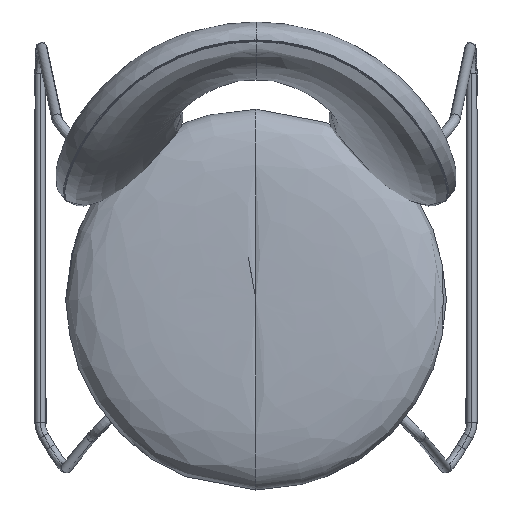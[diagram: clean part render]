
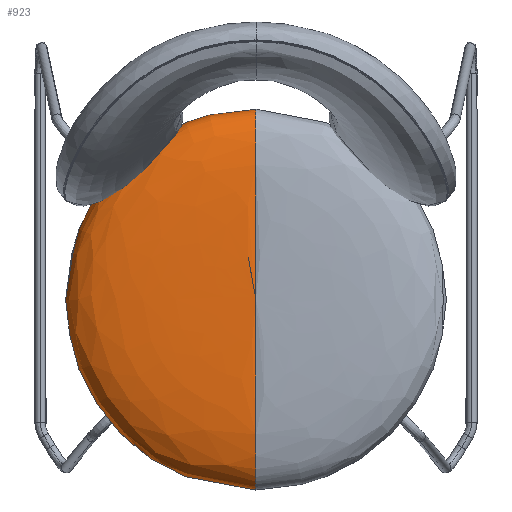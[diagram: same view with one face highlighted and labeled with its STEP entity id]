
A CAD part, top view. The second image highlights one B-rep face of the part: STEP entity #923.
In plain terms, the highlighted free-form (B-spline) face has degree [3, 2] with [8, 5] control points.
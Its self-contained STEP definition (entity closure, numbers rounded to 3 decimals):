
#142=(
BOUNDED_SURFACE()
B_SPLINE_SURFACE(3,2,((#39937,#39938,#39939,#39940,#39941),(#39942,#39943,
#39944,#39945,#39946),(#39947,#39948,#39949,#39950,#39951),(#39952,#39953,
#39954,#39955,#39956),(#39957,#39958,#39959,#39960,#39961),(#39962,#39963,
#39964,#39965,#39966),(#39967,#39968,#39969,#39970,#39971),(#39972,#39973,
#39974,#39975,#39976)),.UNSPECIFIED.,.F.,.F.,.F.)
B_SPLINE_SURFACE_WITH_KNOTS((4,3,1,4),(3,2,3),(-265.,0.,117.5,
235.),(691.148,1036.723,1382.297),
 .UNSPECIFIED.)
GEOMETRIC_REPRESENTATION_ITEM()
RATIONAL_B_SPLINE_SURFACE(((1.,0.707,1.,0.707,1.),
(1.,0.707,1.,0.707,1.),(1.,0.707,1.,
0.707,1.),(1.,0.707,1.,0.707,1.),(1.,
0.707,1.,0.707,1.),(1.,0.707,1.,0.707,
1.),(1.,0.707,1.,0.707,1.),(1.,0.707,
1.,0.707,1.)))
REPRESENTATION_ITEM('')
SURFACE()
);
#923=ADVANCED_FACE('',(#1141),#142,.T.);
#1141=FACE_OUTER_BOUND('',#1359,.T.);
#1359=EDGE_LOOP('',(#2314,#2315));
#2314=ORIENTED_EDGE('',*,*,#3209,.T.);
#2315=ORIENTED_EDGE('',*,*,#3208,.F.);
#3208=EDGE_CURVE('',#5278,#5279,#3544,.T.);
#3209=EDGE_CURVE('',#5278,#5279,#3545,.T.);
#3544=B_SPLINE_CURVE_WITH_KNOTS('',3,(#39979,#39980,#39981,#39982,#39983,
#39984,#39985,#39986),.UNSPECIFIED.,.F.,.F.,(4,3,1,4),(-265.,
0.,117.5,235.),.UNSPECIFIED.);
#3545=B_SPLINE_CURVE_WITH_KNOTS('',3,(#39987,#39988,#39989,#39990,#39991,
#39992,#39993,#39994),.UNSPECIFIED.,.F.,.F.,(4,3,1,4),(-265.,
0.,117.5,235.),.UNSPECIFIED.);
#5278=VERTEX_POINT('',#39977);
#5279=VERTEX_POINT('',#39978);
#39937=CARTESIAN_POINT('',(2980.184,99.115,470.));
#39938=CARTESIAN_POINT('',(2980.184,99.115,470.));
#39939=CARTESIAN_POINT('',(2980.184,99.115,470.));
#39940=CARTESIAN_POINT('',(2980.184,99.115,470.));
#39941=CARTESIAN_POINT('',(2980.184,99.115,470.));
#39942=CARTESIAN_POINT('',(2980.184,237.495,470.));
#39943=CARTESIAN_POINT('',(2841.805,237.495,470.));
#39944=CARTESIAN_POINT('',(2841.805,99.115,470.));
#39945=CARTESIAN_POINT('',(2841.805,-39.265,470.));
#39946=CARTESIAN_POINT('',(2980.184,-39.265,470.));
#39947=CARTESIAN_POINT('',(2980.184,319.115,470.));
#39948=CARTESIAN_POINT('',(2760.184,319.115,470.));
#39949=CARTESIAN_POINT('',(2760.184,99.115,470.));
#39950=CARTESIAN_POINT('',(2760.184,-120.885,470.));
#39951=CARTESIAN_POINT('',(2980.184,-120.885,470.));
#39952=CARTESIAN_POINT('',(2980.184,319.115,425.));
#39953=CARTESIAN_POINT('',(2760.184,319.115,425.));
#39954=CARTESIAN_POINT('',(2760.184,99.115,425.));
#39955=CARTESIAN_POINT('',(2760.184,-120.885,425.));
#39956=CARTESIAN_POINT('',(2980.184,-120.885,425.));
#39957=CARTESIAN_POINT('',(2980.184,319.115,410.));
#39958=CARTESIAN_POINT('',(2760.184,319.115,410.));
#39959=CARTESIAN_POINT('',(2760.184,99.115,410.));
#39960=CARTESIAN_POINT('',(2760.184,-120.885,410.));
#39961=CARTESIAN_POINT('',(2980.184,-120.885,410.));
#39962=CARTESIAN_POINT('',(2980.184,304.394,410.));
#39963=CARTESIAN_POINT('',(2774.905,304.394,410.));
#39964=CARTESIAN_POINT('',(2774.905,99.115,410.));
#39965=CARTESIAN_POINT('',(2774.905,-106.164,410.));
#39966=CARTESIAN_POINT('',(2980.184,-106.164,410.));
#39967=CARTESIAN_POINT('',(2980.184,268.233,410.));
#39968=CARTESIAN_POINT('',(2811.066,268.233,410.));
#39969=CARTESIAN_POINT('',(2811.066,99.115,410.));
#39970=CARTESIAN_POINT('',(2811.066,-70.003,410.));
#39971=CARTESIAN_POINT('',(2980.184,-70.003,410.));
#39972=CARTESIAN_POINT('',(2980.184,99.115,410.));
#39973=CARTESIAN_POINT('',(2980.184,99.115,410.));
#39974=CARTESIAN_POINT('',(2980.184,99.115,410.));
#39975=CARTESIAN_POINT('',(2980.184,99.115,410.));
#39976=CARTESIAN_POINT('',(2980.184,99.115,410.));
#39977=CARTESIAN_POINT('',(2980.184,99.115,470.));
#39978=CARTESIAN_POINT('',(2980.184,99.115,410.));
#39979=CARTESIAN_POINT('',(2980.184,99.115,470.));
#39980=CARTESIAN_POINT('',(2980.184,-39.265,470.));
#39981=CARTESIAN_POINT('',(2980.184,-120.885,470.));
#39982=CARTESIAN_POINT('',(2980.184,-120.885,425.));
#39983=CARTESIAN_POINT('',(2980.184,-120.885,410.));
#39984=CARTESIAN_POINT('',(2980.184,-106.164,410.));
#39985=CARTESIAN_POINT('',(2980.184,-70.003,410.));
#39986=CARTESIAN_POINT('',(2980.184,99.115,410.));
#39987=CARTESIAN_POINT('',(2980.184,99.115,470.));
#39988=CARTESIAN_POINT('',(2980.184,237.495,470.));
#39989=CARTESIAN_POINT('',(2980.184,319.115,470.));
#39990=CARTESIAN_POINT('',(2980.184,319.115,425.));
#39991=CARTESIAN_POINT('',(2980.184,319.115,410.));
#39992=CARTESIAN_POINT('',(2980.184,304.394,410.));
#39993=CARTESIAN_POINT('',(2980.184,268.233,410.));
#39994=CARTESIAN_POINT('',(2980.184,99.115,410.));
